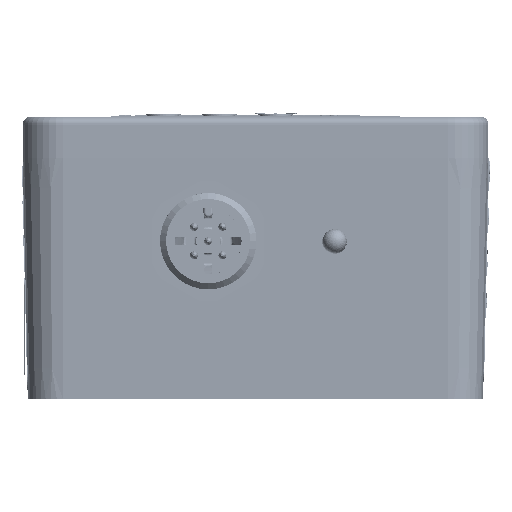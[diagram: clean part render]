
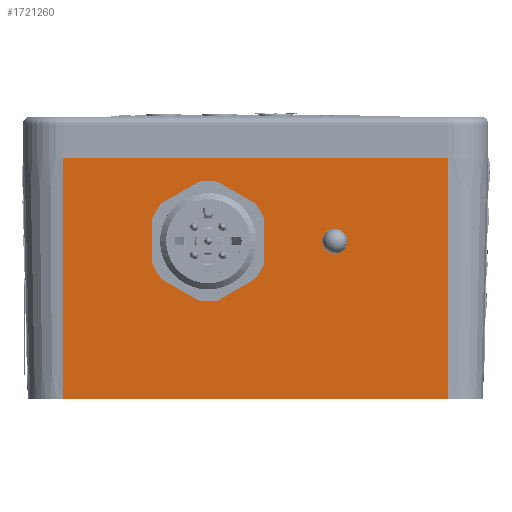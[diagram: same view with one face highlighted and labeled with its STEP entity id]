
A CAD part, front view. The second image highlights one B-rep face of the part: STEP entity #1721260.
In plain terms, the highlighted planar face has unit normal (0, -1, -0.024).
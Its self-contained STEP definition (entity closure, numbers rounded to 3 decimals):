
#915560=ELLIPSE('',#1688150,6.002,6.);
#915561=ELLIPSE('',#1688151,6.002,6.);
#915562=ELLIPSE('',#1688152,7.502,7.5);
#915563=ELLIPSE('',#1688153,7.502,7.5);
#915564=ELLIPSE('',#1688154,7.502,7.5);
#915565=ELLIPSE('',#1688155,6.002,6.);
#916089=VECTOR('',#1512192,1.);
#978289=VECTOR('',#1621886,1.);
#978295=VECTOR('',#1621918,1.);
#978296=VECTOR('',#1621921,1.);
#978297=VECTOR('',#1621934,1.);
#978298=VECTOR('',#1621937,1.);
#978299=VECTOR('',#1621940,1.);
#978300=VECTOR('',#1621943,1.);
#1002315=LINE('',#1730880,#916089);
#1064515=LINE('',#1860612,#978289);
#1064521=LINE('',#1860645,#978295);
#1064522=LINE('',#1860647,#978296);
#1064523=LINE('',#1860662,#978297);
#1064524=LINE('',#1860666,#978298);
#1064525=LINE('',#1860670,#978299);
#1064526=LINE('',#1860674,#978300);
#1111867=PLANE('',#1688145);
#1246775=ORIENTED_EDGE('',*,*,#1419376,.F.);
#1246776=ORIENTED_EDGE('',*,*,#1419359,.T.);
#1246777=ORIENTED_EDGE('',*,*,#1419377,.T.);
#1246778=ORIENTED_EDGE('',*,*,#1356322,.F.);
#1246779=ORIENTED_EDGE('',*,*,#1419378,.F.);
#1246780=ORIENTED_EDGE('',*,*,#1419379,.F.);
#1246781=ORIENTED_EDGE('',*,*,#1419380,.F.);
#1246782=ORIENTED_EDGE('',*,*,#1419381,.F.);
#1246783=ORIENTED_EDGE('',*,*,#1419382,.F.);
#1246784=ORIENTED_EDGE('',*,*,#1419383,.T.);
#1246785=ORIENTED_EDGE('',*,*,#1419384,.F.);
#1246786=ORIENTED_EDGE('',*,*,#1419385,.F.);
#1246787=ORIENTED_EDGE('',*,*,#1419386,.F.);
#1246788=ORIENTED_EDGE('',*,*,#1419387,.F.);
#1246789=ORIENTED_EDGE('',*,*,#1419388,.F.);
#1246790=ORIENTED_EDGE('',*,*,#1419389,.F.);
#1246791=ORIENTED_EDGE('',*,*,#1419390,.F.);
#1246792=ORIENTED_EDGE('',*,*,#1419391,.F.);
#1246793=ORIENTED_EDGE('',*,*,#1419392,.F.);
#1298609=CIRCLE('',#1688146,6.);
#1298610=CIRCLE('',#1688147,6.);
#1298611=CIRCLE('',#1688148,6.);
#1298612=CIRCLE('',#1688149,6.);
#1298613=CIRCLE('',#1688156,1.55);
#1299257=VERTEX_POINT('',#1730872);
#1299259=VERTEX_POINT('',#1730878);
#1338889=VERTEX_POINT('',#1860609);
#1338890=VERTEX_POINT('',#1860611);
#1338905=VERTEX_POINT('',#1860648);
#1338906=VERTEX_POINT('',#1860649);
#1338907=VERTEX_POINT('',#1860651);
#1338908=VERTEX_POINT('',#1860653);
#1338909=VERTEX_POINT('',#1860655);
#1338910=VERTEX_POINT('',#1860657);
#1338911=VERTEX_POINT('',#1860659);
#1338912=VERTEX_POINT('',#1860661);
#1338913=VERTEX_POINT('',#1860663);
#1338914=VERTEX_POINT('',#1860665);
#1338915=VERTEX_POINT('',#1860667);
#1338916=VERTEX_POINT('',#1860669);
#1338917=VERTEX_POINT('',#1860671);
#1338918=VERTEX_POINT('',#1860673);
#1338919=VERTEX_POINT('',#1860676);
#1356322=EDGE_CURVE('',#1299259,#1299257,#1002315,.T.);
#1419359=EDGE_CURVE('',#1338890,#1338889,#1064515,.T.);
#1419376=EDGE_CURVE('',#1338890,#1299259,#1064521,.T.);
#1419377=EDGE_CURVE('',#1338889,#1299257,#1064522,.T.);
#1419378=EDGE_CURVE('',#1338905,#1338906,#1298609,.T.);
#1419379=EDGE_CURVE('',#1338907,#1338905,#1298610,.T.);
#1419380=EDGE_CURVE('',#1338908,#1338907,#1298611,.T.);
#1419381=EDGE_CURVE('',#1338909,#1338908,#1298612,.T.);
#1419382=EDGE_CURVE('',#1338910,#1338909,#915560,.T.);
#1419383=EDGE_CURVE('',#1338910,#1338911,#915561,.T.);
#1419384=EDGE_CURVE('',#1338912,#1338911,#1064523,.T.);
#1419385=EDGE_CURVE('',#1338913,#1338912,#915562,.T.);
#1419386=EDGE_CURVE('',#1338914,#1338913,#1064524,.T.);
#1419387=EDGE_CURVE('',#1338915,#1338914,#915563,.T.);
#1419388=EDGE_CURVE('',#1338916,#1338915,#1064525,.T.);
#1419389=EDGE_CURVE('',#1338917,#1338916,#915564,.T.);
#1419390=EDGE_CURVE('',#1338918,#1338917,#1064526,.T.);
#1419391=EDGE_CURVE('',#1338906,#1338918,#915565,.T.);
#1419392=EDGE_CURVE('',#1338919,#1338919,#1298613,.T.);
#1469076=EDGE_LOOP('',(#1246775,#1246776,#1246777,#1246778));
#1469077=EDGE_LOOP('',(#1246779,#1246780,#1246781,#1246782,#1246783,#1246784,
#1246785,#1246786,#1246787,#1246788,#1246789,#1246790,#1246791,#1246792));
#1469078=EDGE_LOOP('',(#1246793));
#1502302=FACE_BOUND('',#1469076,.T.);
#1502303=FACE_BOUND('',#1469077,.T.);
#1502304=FACE_BOUND('',#1469078,.T.);
#1512192=DIRECTION('',(48.,0.,0.));
#1621886=DIRECTION('',(48.,0.,0.));
#1621918=DIRECTION('',(0.,-0.707,30.));
#1621919=DIRECTION('',(0.,-1.,-0.024));
#1621920=DIRECTION('',(-1.,0.,0.));
#1621921=DIRECTION('',(0.,-0.707,30.));
#1621922=DIRECTION('',(0.,-1.,-0.024));
#1621923=DIRECTION('',(0.,0.141,-5.998));
#1621924=DIRECTION('',(0.,-1.,-0.024));
#1621925=DIRECTION('',(0.,0.141,-5.998));
#1621926=DIRECTION('',(0.,-1.,-0.024));
#1621927=DIRECTION('',(0.,0.141,-5.998));
#1621928=DIRECTION('',(0.,-1.,-0.024));
#1621929=DIRECTION('',(0.,0.141,-5.998));
#1621930=DIRECTION('',(0.,-1.,-0.024));
#1621931=DIRECTION('',(0.,-0.024,1.));
#1621932=DIRECTION('',(0.,-1.,-0.024));
#1621933=DIRECTION('',(0.,-0.024,1.));
#1621934=DIRECTION('',(1.881,0.,0.));
#1621935=DIRECTION('',(0.,-1.,-0.024));
#1621936=DIRECTION('',(0.,0.024,-1.));
#1621937=DIRECTION('',(-4.664,0.063,-2.693));
#1621938=DIRECTION('',(0.,-1.,-0.024));
#1621939=DIRECTION('',(0.,0.024,-1.));
#1621940=DIRECTION('',(-4.664,-0.063,2.693));
#1621941=DIRECTION('',(0.,-1.,-0.024));
#1621942=DIRECTION('',(0.,0.024,-1.));
#1621943=DIRECTION('',(1.872,0.,0.));
#1621944=DIRECTION('',(0.,-1.,-0.024));
#1621945=DIRECTION('',(0.,-0.024,1.));
#1621946=DIRECTION('',(0.,-1.,-0.024));
#1621947=DIRECTION('',(0.,0.037,-1.55));
#1688145=AXIS2_PLACEMENT_3D('',#1860646,#1621919,#1621920);
#1688146=AXIS2_PLACEMENT_3D('',#1860650,#1621922,#1621923);
#1688147=AXIS2_PLACEMENT_3D('',#1860652,#1621924,#1621925);
#1688148=AXIS2_PLACEMENT_3D('',#1860654,#1621926,#1621927);
#1688149=AXIS2_PLACEMENT_3D('',#1860656,#1621928,#1621929);
#1688150=AXIS2_PLACEMENT_3D('',#1860658,#1621930,#1621931);
#1688151=AXIS2_PLACEMENT_3D('',#1860660,#1621932,#1621933);
#1688152=AXIS2_PLACEMENT_3D('',#1860664,#1621935,#1621936);
#1688153=AXIS2_PLACEMENT_3D('',#1860668,#1621938,#1621939);
#1688154=AXIS2_PLACEMENT_3D('',#1860672,#1621941,#1621942);
#1688155=AXIS2_PLACEMENT_3D('',#1860675,#1621944,#1621945);
#1688156=AXIS2_PLACEMENT_3D('',#1860677,#1621946,#1621947);
#1721260=ADVANCED_FACE('',(#1502302,#1502303,#1502304),#1111867,.T.);
#1730872=CARTESIAN_POINT('',(67.686,83.498,-1.7));
#1730878=CARTESIAN_POINT('',(19.686,83.498,-1.7));
#1730880=CARTESIAN_POINT('',(19.686,83.498,-1.7));
#1860609=CARTESIAN_POINT('',(67.686,84.205,-31.7));
#1860611=CARTESIAN_POINT('',(19.686,84.205,-31.7));
#1860612=CARTESIAN_POINT('',(19.686,84.205,-31.7));
#1860645=CARTESIAN_POINT('',(19.686,84.205,-31.7));
#1860646=CARTESIAN_POINT('',(19.686,84.205,-31.7));
#1860647=CARTESIAN_POINT('',(67.686,84.205,-31.7));
#1860648=CARTESIAN_POINT('',(38.317,83.884,-18.077));
#1860649=CARTESIAN_POINT('',(38.971,83.882,-17.984));
#1860650=CARTESIAN_POINT('',(37.788,83.743,-12.102));
#1860651=CARTESIAN_POINT('',(37.788,83.885,-18.101));
#1860652=CARTESIAN_POINT('',(37.788,83.743,-12.102));
#1860653=CARTESIAN_POINT('',(35.413,83.613,-6.594));
#1860654=CARTESIAN_POINT('',(37.788,83.743,-12.102));
#1860655=CARTESIAN_POINT('',(35.94,83.609,-6.395));
#1860656=CARTESIAN_POINT('',(37.788,83.743,-12.102));
#1860657=CARTESIAN_POINT('',(37.792,83.602,-6.1));
#1860658=CARTESIAN_POINT('',(37.797,83.743,-12.1));
#1860659=CARTESIAN_POINT('',(33.347,83.648,-8.065));
#1860660=CARTESIAN_POINT('',(37.788,83.743,-12.1));
#1860661=CARTESIAN_POINT('',(31.466,83.648,-8.065));
#1860662=CARTESIAN_POINT('',(31.466,83.648,-8.065));
#1860663=CARTESIAN_POINT('',(31.956,83.632,-7.384));
#1860664=CARTESIAN_POINT('',(37.788,83.743,-12.1));
#1860665=CARTESIAN_POINT('',(36.62,83.569,-4.692));
#1860666=CARTESIAN_POINT('',(36.62,83.569,-4.692));
#1860667=CARTESIAN_POINT('',(38.956,83.569,-4.692));
#1860668=CARTESIAN_POINT('',(37.788,83.743,-12.1));
#1860669=CARTESIAN_POINT('',(43.62,83.632,-7.384));
#1860670=CARTESIAN_POINT('',(43.62,83.632,-7.384));
#1860671=CARTESIAN_POINT('',(44.11,83.648,-8.065));
#1860672=CARTESIAN_POINT('',(37.788,83.743,-12.1));
#1860673=CARTESIAN_POINT('',(42.238,83.648,-8.065));
#1860674=CARTESIAN_POINT('',(42.238,83.648,-8.065));
#1860675=CARTESIAN_POINT('',(37.797,83.743,-12.1));
#1860676=CARTESIAN_POINT('',(53.537,83.78,-13.659));
#1860677=CARTESIAN_POINT('',(53.537,83.743,-12.109));
